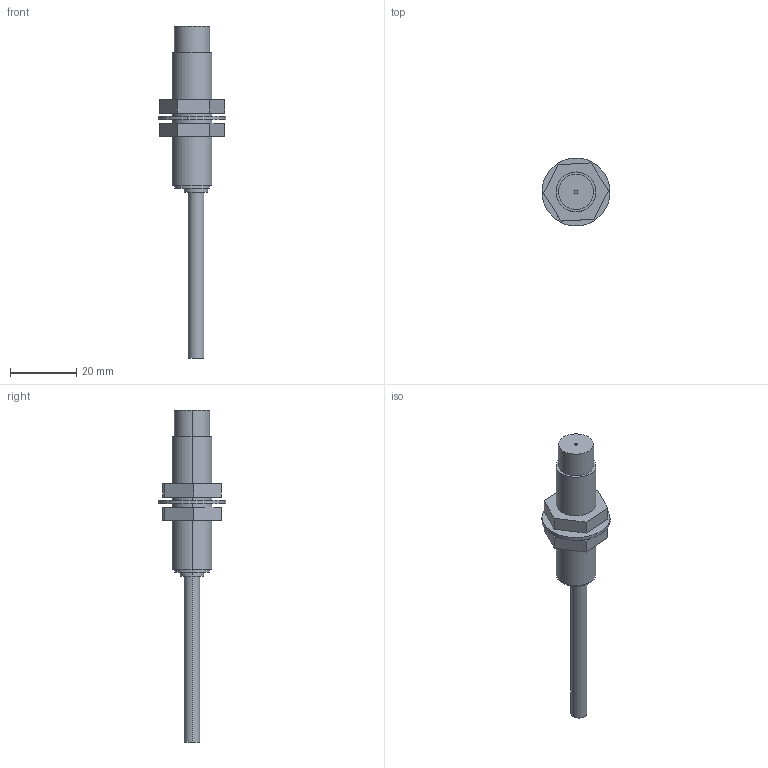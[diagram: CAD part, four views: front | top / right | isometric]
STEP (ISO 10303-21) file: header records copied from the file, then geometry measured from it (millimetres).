
FILE_DESCRIPTION (( 'STEP AP203' ), '1' );
FILE_NAME ('gx-112mlk.STEP', '2017-05-18T01:56:03', ( '' ), ( '' ), 'SwSTEP 2.0', 'SolidWorks 2014', '' );
FILE_SCHEMA (( 'CONFIG_CONTROL_DESIGN' ));
Length unit declared in the file: millimetre
Products named in the file (4): gx-112mlk luomu; gx-112mlk benti; gx-112mlk dianpian; gx-112mlk
Assembly tree (4 placements, depth 2):
  gx-112mlk
    gx-112mlk benti
    gx-112mlk dianpian
    gx-112mlk luomu  x2
Bounding box: 20.48 x 20.48 x 100 mm (x, y, z)
Volume: 7564.1 mm3; surface area: 4666.4 mm2
Topology: 4 solids, 4 shells, 57 faces, 120 edges, 80 vertices
Faces by surface type: plane 29, cylinder 28
Entity records: 1716 total; most frequent: DIRECTION 256, CARTESIAN_POINT 214, ORIENTED_EDGE 192, AXIS2_PLACEMENT_3D 106, EDGE_CURVE 96, VERTEX_POINT 64, EDGE_LOOP 60, CIRCLE 52
